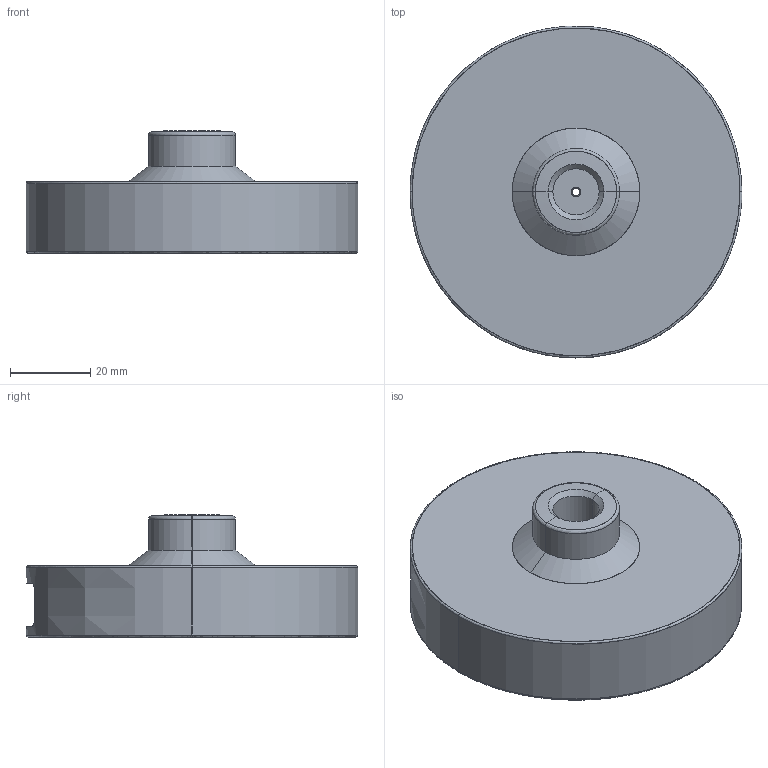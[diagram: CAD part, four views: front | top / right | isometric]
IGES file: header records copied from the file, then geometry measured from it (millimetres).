
Start section: SolidWorks IGES file using analytic representation for surfaces
Global section: file name: C:\Documents and Settings\Soundar\My Documents\Specsheets\Capacitive\PUF\Solid Models\iLoad Pro 1K#\iLoad Pro (upto 2500# - for Web).IGS; native system: SolidWorks 2009; preprocessor: SolidWorks 2009; author: Soundar; date: 130204.125752; units: inch
Bounding box: 82.55 x 82.55 x 30.39 mm (x, y, z)
Surface area: 20671.4 mm2 (no closed solid volume)
Topology: 0 solids, 0 shells, 161 faces, 2723 edges, 2723 vertices
Faces by surface type: revolution 130, bspline 31
